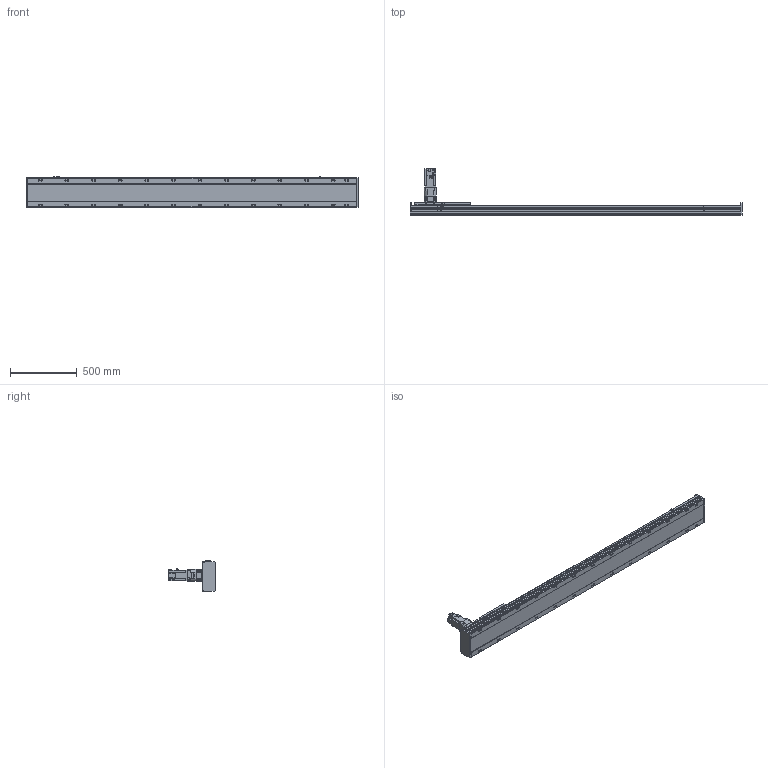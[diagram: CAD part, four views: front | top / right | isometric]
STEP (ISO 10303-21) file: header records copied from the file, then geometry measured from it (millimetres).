
FILE_DESCRIPTION(/* description */ ('STEP AP214'),/* implementation_level */ '2;1');
FILE_NAME(/* name */ 'SHS22A-L13-S2000-BC-T75-C1-N(0)',/* time_stamp */ '2022-06-15T02:27:01+02:00',/* author */ ('License CC BY-ND 4.0'),/* organization */ ('CADENAS'),/* preprocessor_version */ 'ST-DEVELOPER v18.102',/* originating_system */ 'PARTsolutions',/* authorisation */ ' ');
FILE_SCHEMA (('AUTOMOTIVE_DESIGN {1 0 10303 214 3 1 1}'));
Length unit declared in the file: millimetre
Products named in the file (7): SHS22A-L13-S2000-BC-T75-C1-N(0); PSC140-sensor; SHS22A-S2000_body2; T75-p1; SHS22A-S2000_body3; SHS22A-S2000_slider; SHS22A-L13-S2000-BC-T75-C1(0)_body
Assembly tree (13 placements, depth 2):
  SHS22A-L13-S2000-BC-T75-C1-N(0)
    PSC140-sensor  x3
    SHS22A-S2000_body2  x6
    T75-p1
    SHS22A-S2000_body3
    SHS22A-S2000_slider
    SHS22A-L13-S2000-BC-T75-C1(0)_body
Bounding box: 2494 x 350.8 x 238.4 mm (x, y, z)
Volume: 28261400.5 mm3; surface area: 2959765.8 mm2
Topology: 13 solids, 13 shells, 1857 faces, 4779 edges, 3130 vertices
Faces by surface type: plane 1332, cylinder 425, cone 91, torus 9
Full cylindrical faces by diameter (mm): 2.8 x3, 4.2 x2, 4.6 x3, 4.917 x4, 5 x4, 5.6 x24, 6 x31, 6.6 x24, 6.647 x8, 6.8 x9, 7.75 x6, 8 x3, 8.376 x26, 8.5 x26, 10 x4, 11 x4, 12 x24, 14 x26, 22 x1, 24.1 x1, 28 x1, 28.2 x1, 28.8 x1, 48.542 x1, 68 x1, 70 x1, 78 x1, 80 x2
Entity records: 30658 total; most frequent: CARTESIAN_POINT 5471, DIRECTION 5189, ORIENTED_EDGE 4728, EDGE_CURVE 2364, AXIS2_PLACEMENT_3D 1810, VERTEX_POINT 1694, FACE_BOUND 1578, EDGE_LOOP 1577
